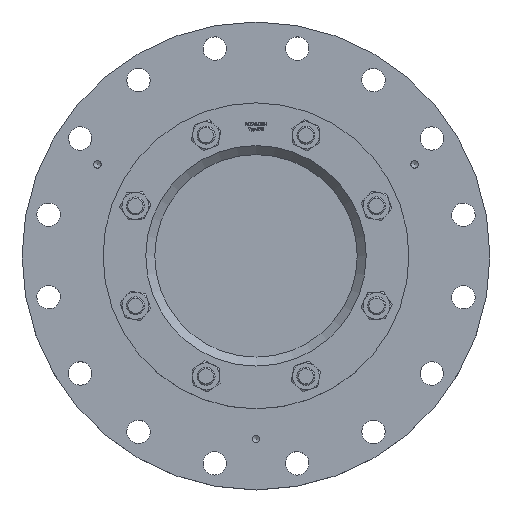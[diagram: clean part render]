
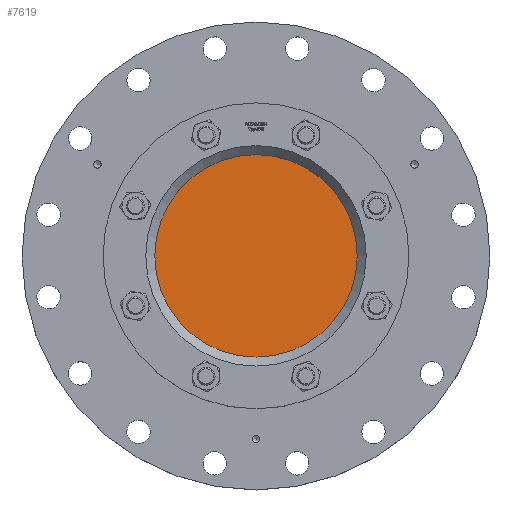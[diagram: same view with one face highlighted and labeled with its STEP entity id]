
A CAD part, top view. The second image highlights one B-rep face of the part: STEP entity #7619.
In plain terms, the highlighted planar face has unit normal (0, 0, 1).
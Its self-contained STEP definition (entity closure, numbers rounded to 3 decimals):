
#2243=FACE_OUTER_BOUND('',#2696,.T.);
#2696=EDGE_LOOP('',(#5262));
#3285=CIRCLE('',#8075,112.5);
#3467=VERTEX_POINT('',#10148);
#4183=EDGE_CURVE('',#3467,#3467,#3285,.T.);
#5262=ORIENTED_EDGE('',*,*,#4183,.F.);
#7420=PLANE('',#8074);
#7619=ADVANCED_FACE('',(#2243),#7420,.F.);
#8074=AXIS2_PLACEMENT_3D('',#10147,#8603,#8604);
#8075=AXIS2_PLACEMENT_3D('',#10149,#8605,#8606);
#8603=DIRECTION('center_axis',(0.,0.,-1.));
#8604=DIRECTION('ref_axis',(-1.,0.,0.));
#8605=DIRECTION('center_axis',(0.,0.,-1.));
#8606=DIRECTION('ref_axis',(-1.,0.,0.));
#10147=CARTESIAN_POINT('Origin',(0.,0.,107.));
#10148=CARTESIAN_POINT('',(112.5,0.,107.));
#10149=CARTESIAN_POINT('Origin',(0.,0.,107.));
